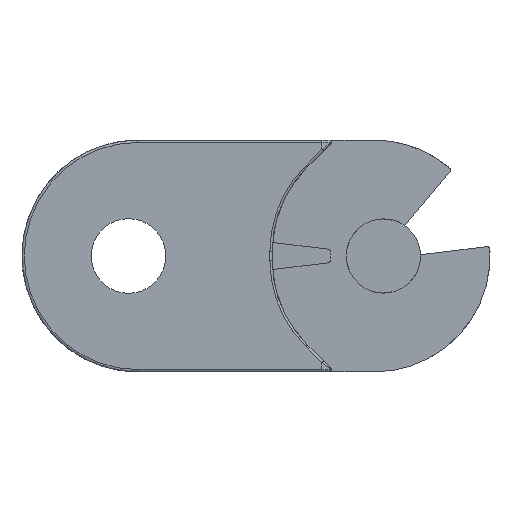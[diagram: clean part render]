
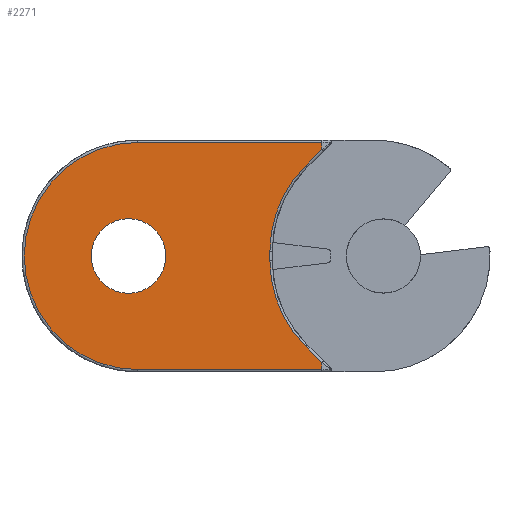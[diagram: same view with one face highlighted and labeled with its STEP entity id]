
A CAD part, left-side view. The second image highlights one B-rep face of the part: STEP entity #2271.
In plain terms, the highlighted free-form (B-spline) face has degree [1, 1] with [2, 2] control points.
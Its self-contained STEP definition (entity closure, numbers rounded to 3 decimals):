
#2170=CARTESIAN_POINT('',(-84.94,50.25,0.502));
#2171=CARTESIAN_POINT('',(-84.94,-14.302,0.502));
#2172=CARTESIAN_POINT('',(-84.94,50.25,49.747));
#2173=CARTESIAN_POINT('',(-84.94,-14.302,49.747));
#2174=B_SPLINE_SURFACE_WITH_KNOTS('',1,1,((#2170,#2172),(#2171,#2173)),.UNSPECIFIED.,.F.,.F.,.U.,(2,2),(2,2),(0.0,64.552),(0.0,49.245),.UNSPECIFIED.);
#2175=CARTESIAN_POINT('',(-84.94,-14.302,48.24));
#2176=VERTEX_POINT('',#2175);
#2177=CARTESIAN_POINT('',(-84.94,-14.302,49.747));
#2178=VERTEX_POINT('',#2177);
#2179=CARTESIAN_POINT('',(-84.94,-14.302,48.24));
#2180=DIRECTION('',(0.0,0.0,1.0));
#2181=VECTOR('',#2180,1.508);
#2182=LINE('',#2179,#2181);
#2183=EDGE_CURVE('',#2176,#2178,#2182,.T.);
#2184=ORIENTED_EDGE('',*,*,#2183,.T.);
#2185=CARTESIAN_POINT('',(-84.94,25.628,49.747));
#2186=VERTEX_POINT('',#2185);
#2187=CARTESIAN_POINT('',(-84.94,-14.302,49.747));
#2188=DIRECTION('',(0.0,1.0,0.0));
#2189=VECTOR('',#2188,39.929);
#2190=LINE('',#2187,#2189);
#2191=EDGE_CURVE('',#2178,#2186,#2190,.T.);
#2192=ORIENTED_EDGE('',*,*,#2191,.T.);
#2193=CARTESIAN_POINT('',(-84.94,25.628,0.502));
#2194=VERTEX_POINT('',#2193);
#2195=CARTESIAN_POINT('',(-84.94,25.628,25.125));
#2196=DIRECTION('',(-1.0,0.0,0.0));
#2197=DIRECTION('',(0.0,1.0,0.0));
#2198=AXIS2_PLACEMENT_3D('',#2195,#2196,#2197);
#2199=CIRCLE('',#2198,24.622);
#2200=EDGE_CURVE('',#2186,#2194,#2199,.T.);
#2201=ORIENTED_EDGE('',*,*,#2200,.T.);
#2202=CARTESIAN_POINT('',(-84.94,-14.302,0.502));
#2203=VERTEX_POINT('',#2202);
#2204=CARTESIAN_POINT('',(-84.94,25.628,0.502));
#2205=DIRECTION('',(0.0,-1.0,0.0));
#2206=VECTOR('',#2205,39.929);
#2207=LINE('',#2204,#2206);
#2208=EDGE_CURVE('',#2194,#2203,#2207,.T.);
#2209=ORIENTED_EDGE('',*,*,#2208,.T.);
#2210=CARTESIAN_POINT('',(-84.94,-14.302,2.01));
#2211=VERTEX_POINT('',#2210);
#2212=CARTESIAN_POINT('',(-84.94,-14.302,2.01));
#2213=DIRECTION('',(0.0,0.0,-1.0));
#2214=VECTOR('',#2213,1.508);
#2215=LINE('',#2212,#2214);
#2216=EDGE_CURVE('',#2211,#2203,#2215,.T.);
#2217=ORIENTED_EDGE('',*,*,#2216,.F.);
#2218=CARTESIAN_POINT('',(-84.94,-10.668,5.643));
#2219=VERTEX_POINT('',#2218);
#2220=CARTESIAN_POINT('',(-84.94,-14.302,2.01));
#2221=DIRECTION('',(0.0,0.707,0.707));
#2222=VECTOR('',#2221,5.138);
#2223=LINE('',#2220,#2222);
#2224=EDGE_CURVE('',#2211,#2219,#2223,.T.);
#2225=ORIENTED_EDGE('',*,*,#2224,.T.);
#2226=CARTESIAN_POINT('',(-84.94,-3.015,24.12));
#2227=VERTEX_POINT('',#2226);
#2228=CARTESIAN_POINT('',(-84.94,-29.145,24.12));
#2229=DIRECTION('',(1.0,0.0,0.0));
#2230=DIRECTION('',(0.0,1.0,0.0));
#2231=AXIS2_PLACEMENT_3D('',#2228,#2229,#2230);
#2232=CIRCLE('',#2231,26.13);
#2233=EDGE_CURVE('',#2219,#2227,#2232,.T.);
#2234=ORIENTED_EDGE('',*,*,#2233,.T.);
#2235=CARTESIAN_POINT('',(-84.94,-3.015,26.13));
#2236=VERTEX_POINT('',#2235);
#2237=CARTESIAN_POINT('',(-84.94,-3.015,24.12));
#2238=DIRECTION('',(0.0,0.0,1.0));
#2239=VECTOR('',#2238,2.01);
#2240=LINE('',#2237,#2239);
#2241=EDGE_CURVE('',#2227,#2236,#2240,.T.);
#2242=ORIENTED_EDGE('',*,*,#2241,.T.);
#2243=CARTESIAN_POINT('',(-84.94,-10.668,44.607));
#2244=VERTEX_POINT('',#2243);
#2245=CARTESIAN_POINT('',(-84.94,-29.145,26.13));
#2246=DIRECTION('',(1.0,0.0,0.0));
#2247=DIRECTION('',(0.0,1.0,0.0));
#2248=AXIS2_PLACEMENT_3D('',#2245,#2246,#2247);
#2249=CIRCLE('',#2248,26.13);
#2250=EDGE_CURVE('',#2236,#2244,#2249,.T.);
#2251=ORIENTED_EDGE('',*,*,#2250,.T.);
#2252=CARTESIAN_POINT('',(-84.94,-10.668,44.607));
#2253=DIRECTION('',(0.,-0.707,0.707));
#2254=VECTOR('',#2253,5.138);
#2255=LINE('',#2252,#2254);
#2256=EDGE_CURVE('',#2244,#2176,#2255,.T.);
#2257=ORIENTED_EDGE('',*,*,#2256,.T.);
#2258=EDGE_LOOP('',(#2184,#2192,#2201,#2209,#2217,#2225,#2234,#2242,#2251,#2257));
#2259=FACE_OUTER_BOUND('',#2258,.T.);
#2260=CARTESIAN_POINT('',(-84.94,35.728,25.125));
#2261=VERTEX_POINT('',#2260);
#2262=CARTESIAN_POINT('',(-84.94,27.638,25.125));
#2263=DIRECTION('',(-1.0,0.0,0.0));
#2264=DIRECTION('',(0.0,1.0,0.0));
#2265=AXIS2_PLACEMENT_3D('',#2262,#2263,#2264);
#2266=CIRCLE('',#2265,8.09);
#2267=EDGE_CURVE('',#2261,#2261,#2266,.T.);
#2268=ORIENTED_EDGE('',*,*,#2267,.F.);
#2269=EDGE_LOOP('',(#2268));
#2270=FACE_BOUND('',#2269,.T.);
#2271=ADVANCED_FACE('',(#2259,#2270),#2174,.T.);
